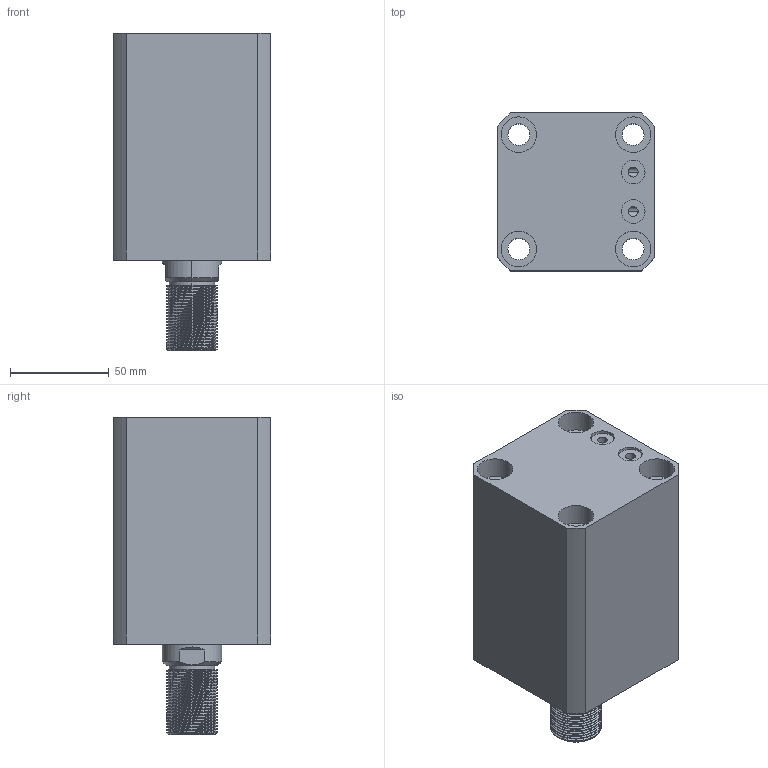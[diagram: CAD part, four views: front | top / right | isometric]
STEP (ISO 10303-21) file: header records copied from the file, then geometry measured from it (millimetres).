
FILE_DESCRIPTION (( 'STEP AP203' ), '1' );
FILE_NAME ('CHTB-SDMB50-55W.STEP', '2018-05-19T06:01:34', ( '' ), ( '' ), 'SwSTEP 2.0', 'SolidWorks 2015', '' );
FILE_SCHEMA (( 'CONFIG_CONTROL_DESIGN' ));
Length unit declared in the file: millimetre
Products named in the file (5): CHTB-SDMB50-55W; CHTM-SDMA50QG; 活塞杆SDMB50-55N; 掛极SDMB50-55N; M6
Assembly tree (5 placements, depth 2):
  CHTB-SDMB50-55W
    掛极SDMB50-55N
    活塞杆SDMB50-55N
    CHTM-SDMA50QG
    M6  x2
Bounding box: 80 x 80 x 161 mm (x, y, z)
Volume: 623426 mm3; surface area: 120351 mm2
Topology: 5 solids, 5 shells, 305 faces, 821 edges, 547 vertices
Faces by surface type: cylinder 175, plane 57, cone 29, bspline 28, torus 16
Entity records: 17763 total; most frequent: CARTESIAN_POINT 11022, ORIENTED_EDGE 1448, DIRECTION 1131, EDGE_CURVE 724, VERTEX_POINT 486, AXIS2_PLACEMENT_3D 455, EDGE_LOOP 312, FACE_OUTER_BOUND 270
